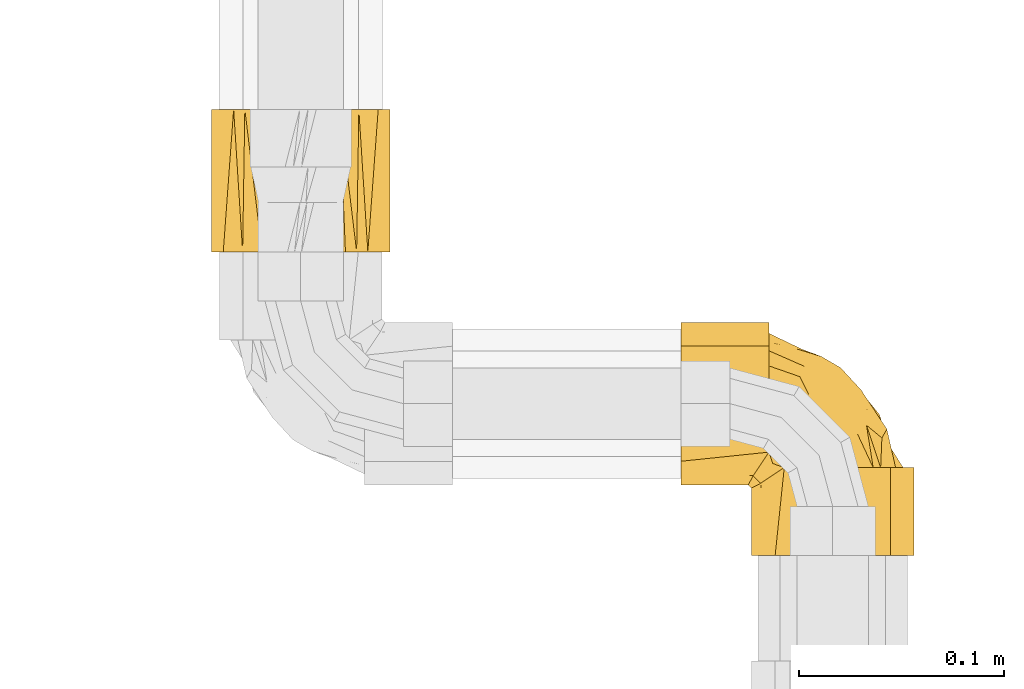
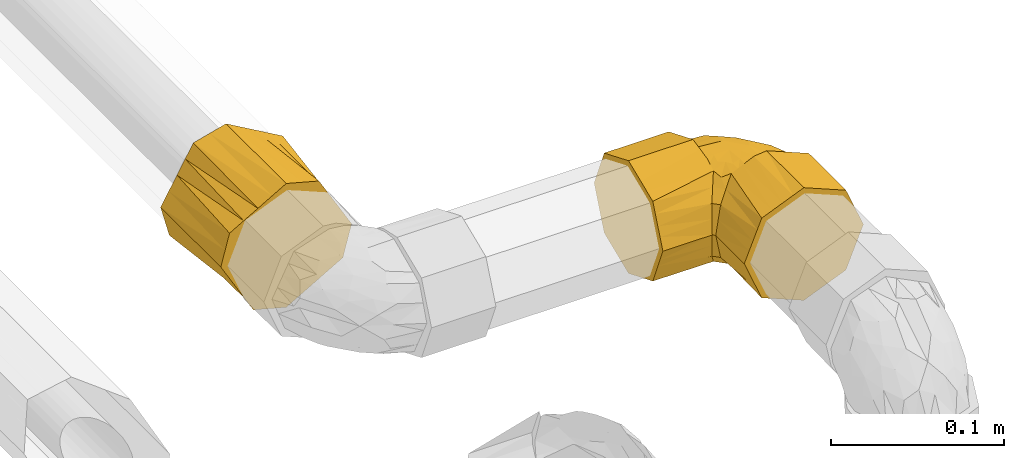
# One storey, part 257 of 652: 2 coverings.
"""IFC2X3 building model written with IfcOpenShell, lengths in millimetres."""

from ifc_helpers import new_model, entity, si_unit, converted_unit, direction, frame, origin, place, context, subcontext, project, spatial, faceted_brep, material, type_object, element, save


model = new_model("IFC2X3")

# Units and contexts
model_context = context("Model", 3, precision=0.01, world=frame((0.0, 0.0, 308426.39999999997)), true_north=direction((6.123233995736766e-17, 1.0)))
plan_context = context("Plan", 3, precision=0.01, world=frame((0.0, 0.0, 308426.39999999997)), true_north=direction((6.123233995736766e-17, 1.0)))
body_context = subcontext(model_context, "Body", "Model", "MODEL_VIEW")
ifc_project = project(units=[si_unit("LENGTHUNIT", "METRE", prefix="MILLI"), si_unit("AREAUNIT", "SQUARE_METRE"), si_unit("VOLUMEUNIT", "CUBIC_METRE"), converted_unit("PLANEANGLEUNIT", "DEGREE", entity("IfcPlaneAngleMeasure", 0.017453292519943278), si_unit("PLANEANGLEUNIT", "RADIAN"), dimensions=[0, 0, 0, 0, 0, 0, 0])], contexts=[model_context, plan_context])

# Site, building, storey
site_placement = place(None, origin())
site = spatial("IfcSite", under=ifc_project, at=site_placement, Name="Default", CompositionType="ELEMENT")
building_placement = place(site_placement, origin())
building = spatial("IfcBuilding", under=site, at=building_placement, CompositionType="ELEMENT")
storey_placement = place(building_placement, frame((0.0, 0.0, 1730.6999999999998)))
storey = spatial("IfcBuildingStorey", under=building, at=storey_placement, Name="EG_Produktion_FFB", CompositionType="ELEMENT", Elevation=1730.6999999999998)

# Coverings
ifc_material = material(Name="Dämmung - Armaflex-Schlauch")
covering_type = type_object("IfcCoveringType", Name="Rohrdämmung außen:Armaflex-Schlauch", PredefinedType="INSULATION")
covering_1_placement = place(storey_placement, frame((79507.84274770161, 51763.77835396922, 3641.3952722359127)))
element("IfcCovering", 1, at=covering_1_placement, inside=storey, type_object=covering_type, material=ifc_material, Name="Rohrdämmung außen:Armaflex-Schlauch", ObjectType="Rohrdämmung außen:Armaflex-Schlauch", PredefinedType="INSULATION", context=body_context, shape_type="Brep", body=[
    faceted_brep([(60.274884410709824, 43.05000000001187, -76.69198954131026), (64.29230202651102, 43.05000000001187, -77.1640415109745), (70.51547105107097, 43.05000000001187, -77.89527223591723), (78.15107734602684, 43.05000000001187, -74.45323515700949), (85.78668364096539, 43.05000000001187, -71.01119807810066), (92.9604596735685, 43.05000000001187, -67.77734838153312), (100.13423570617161, 43.05000000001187, -64.54349868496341), (104.38836473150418, 43.05000000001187, -52.96938546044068), (108.64249375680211, 43.05000000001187, -41.39527223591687), (104.99034516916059, 43.05000000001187, -34.17467666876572), (101.33819658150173, 43.05000000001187, -26.95408110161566), (97.68604799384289, 43.05000000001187, -19.733485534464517), (94.03389940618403, 43.05000000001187, -12.512889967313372), (86.6719403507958, 43.05000000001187, -10.12835180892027), (78.59370570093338, 43.05000000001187, -7.511812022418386), (70.51547105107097, 43.05000000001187, -4.8952722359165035), (64.29230202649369, 43.05000000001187, -5.626502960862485), (60.274884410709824, 43.05000000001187, -6.098554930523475), (55.423202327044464, 43.05000000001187, -7.751839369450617), (50.57152024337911, 43.05000000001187, -9.405123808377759), (58.21189368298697, 43.05000000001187, -5.948218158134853), (65.8522671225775, 43.05000000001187, -2.4913125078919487), (74.24999999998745, 43.05000000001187, -1.5952722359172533), (82.25021212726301, 43.05000000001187, -4.909068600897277), (88.32142494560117, 43.05000000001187, -7.423847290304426), (95.35713741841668, 43.05000000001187, -10.338134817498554), (102.39284989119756, 43.05000000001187, -13.252422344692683), (105.3071374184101, 43.05000000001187, -20.28813481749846), (108.2214249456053, 43.05000000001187, -27.323847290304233), (111.13571247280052, 43.05000000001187, -34.35955976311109), (114.0499999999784, 43.05000000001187, -41.39527223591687), (110.73620360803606, 43.05000000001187, -49.395484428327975), (108.2214249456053, 43.05000000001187, -55.466697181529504), (105.3071374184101, 43.05000000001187, -62.50240965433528), (102.39284989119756, 43.05000000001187, -69.53812212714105), (95.35713741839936, 43.05000000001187, -72.45240965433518), (88.32142494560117, 43.05000000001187, -75.3666971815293), (82.25021085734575, 43.05000000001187, -77.88147639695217), (74.24999999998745, 43.05000000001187, -81.19527223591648), (66.046592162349, 43.05000000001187, -79.42574657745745), (57.843184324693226, 43.05000000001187, -77.65622091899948), (50.57152024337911, 43.05000000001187, -73.38542066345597), (55.423202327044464, 43.05000000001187, -75.03870510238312), (67.21428752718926, 0.0, -4.5095597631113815), (60.17857505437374, 0.0, -7.423847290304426), (53.14286258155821, 0.0, -10.338134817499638), (46.10715010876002, 0.0, -13.252422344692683), (43.1928625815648, 0.0, -20.28813481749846), (40.2785750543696, 0.0, -27.323847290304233), (37.763796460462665, 0.0, -33.39505987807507), (34.44999999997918, 0.0, -41.39527223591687), (37.76379578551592, 0.0, -49.39548296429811), (40.2785750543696, 0.0, -55.466697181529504), (43.1928625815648, 0.0, -62.50240965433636), (46.10715010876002, 0.0, -69.53812212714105), (53.142862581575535, 0.0, -72.45240965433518), (60.17857505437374, 0.0, -75.3666971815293), (67.21428752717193, 0.0, -78.28098470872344), (74.24999999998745, 0.0, -81.19527223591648), (81.28571247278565, 0.0, -78.28098470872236), (88.32142494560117, 0.0, -75.3666971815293), (95.35713741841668, 0.0, -72.45240965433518), (102.39284989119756, 0.0, -69.53812212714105), (105.3071374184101, 0.0, -62.50240965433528), (108.22142494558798, 0.0, -55.466697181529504), (111.13571247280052, 0.0, -48.43098470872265), (114.0499999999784, 0.0, -41.39527223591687), (111.13571247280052, 0.0, -34.35955976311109), (108.2214249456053, 0.0, -27.323847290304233), (105.3071374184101, 0.0, -20.28813481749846), (102.39284989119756, 0.0, -13.252422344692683), (90.250425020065, 0.0, -8.222865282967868), (82.25021251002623, 0.0, -4.90906875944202), (74.24999999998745, 0.0, -1.5952722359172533), (44.81389553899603, 39.20119599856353, -16.10717069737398), (34.44999999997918, 32.96795940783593, -41.39527223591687), (36.753135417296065, 34.16017570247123, -32.102244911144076), (39.056270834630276, 35.352391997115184, -22.809217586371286), (37.9047031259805, 34.756283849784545, -27.45573124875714), (44.81389553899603, 39.20119599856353, -66.68337377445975), (36.753135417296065, 34.16017570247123, -50.68829956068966), (39.056270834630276, 35.352391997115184, -59.98132688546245), (35.51913456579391, 33.52139610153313, -45.709172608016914), (43.04999999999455, 74.25000000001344, -81.1952722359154), (43.04999999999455, 82.25021205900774, -77.88147589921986), (43.04999999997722, 88.32142494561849, -75.3666971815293), (43.04999999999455, 95.35713741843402, -72.45240965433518), (43.04999999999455, 102.39284989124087, -69.53812212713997), (43.04999999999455, 105.30713741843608, -62.502409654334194), (43.04999999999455, 108.22142494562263, -55.46669718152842), (43.04999999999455, 110.7362041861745, -49.395483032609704), (43.04999999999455, 114.05000000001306, -41.39527223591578), (43.04999999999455, 110.73620376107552, -33.395060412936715), (43.04999999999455, 108.22142494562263, -27.323847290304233), (43.04999999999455, 105.30713741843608, -20.288134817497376), (43.04999999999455, 102.39284989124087, -13.252422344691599), (43.04999999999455, 95.35713741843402, -10.33813481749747), (43.04999999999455, 88.32142494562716, -7.423847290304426), (43.04999999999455, 81.2857124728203, -4.509559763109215), (43.04999999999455, 74.25000000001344, -1.5952722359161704), (43.04999999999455, 66.04659216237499, -3.3647978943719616), (43.04999999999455, 57.84318432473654, -5.134323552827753), (43.04999999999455, 50.57152024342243, -9.405123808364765), (43.05000000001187, 55.42320232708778, -7.751839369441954), (43.04999999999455, 60.27488441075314, -6.098554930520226), (43.05000000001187, 64.29230132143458, -5.626503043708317), (43.05000000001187, 67.40388618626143, -5.2608876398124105), (43.04999999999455, 70.5154710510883, -4.8952722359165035), (43.05000000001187, 77.92016221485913, -8.23321562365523), (43.05000000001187, 85.32485337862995, -11.571159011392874), (43.05000000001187, 92.72954454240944, -14.909102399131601), (43.04999999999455, 100.13423570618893, -18.24704578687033), (43.05000000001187, 102.26130021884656, -24.034102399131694), (43.05000000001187, 104.38836473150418, -29.821159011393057), (43.04999999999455, 108.6424937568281, -41.39527223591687), (43.05000000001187, 104.99034516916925, -48.615867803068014), (43.05000000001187, 101.3381965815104, -55.83646337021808), (43.05000000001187, 97.68604799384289, -63.05705893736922), (43.04999999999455, 94.03389940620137, -70.27765450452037), (43.05000000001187, 88.15429231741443, -72.1820589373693), (43.05000000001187, 82.27468522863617, -74.08646337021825), (43.04999999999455, 70.5154710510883, -77.89527223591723), (43.05000000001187, 67.40388618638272, -77.52965683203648), (43.05000000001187, 64.29230132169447, -77.16404142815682), (43.04999999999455, 60.2748844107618, -76.6919895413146), (43.05000000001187, 55.42320232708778, -75.03870510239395), (43.04999999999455, 50.57152024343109, -73.38542066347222), (43.04999999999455, 58.21189368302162, -76.84232631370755), (43.04999999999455, 65.85226712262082, -80.29923196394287), (0.0, 81.2857124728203, -4.509559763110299), (0.0, 88.32142494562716, -7.423847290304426), (0.0, 95.35713741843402, -10.33813481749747), (0.0, 102.39284989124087, -13.252422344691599), (0.0, 107.42240707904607, -25.39484752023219), (0.0, 110.73620353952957, -33.39505987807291), (0.0, 114.05000000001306, -41.39527223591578), (0.0, 111.13571247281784, -48.43098470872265), (0.0, 108.22142494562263, -55.46669718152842), (0.0, 105.30713741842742, -62.50240965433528), (0.0, 102.39284989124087, -69.53812212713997), (0.0, 95.35713741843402, -72.4524096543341), (0.0, 88.32142494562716, -75.36669718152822), (0.0, 81.2857124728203, -78.28098470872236), (0.0, 74.25000000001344, -81.1952722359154), (0.0, 67.21428752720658, -78.28098470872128), (0.0, 60.17857505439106, -75.36669718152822), (0.0, 53.142862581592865, -72.4524096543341), (0.0, 46.10715010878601, -69.53812212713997), (0.0, 43.19286258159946, -62.502409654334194), (0.0, 40.27857505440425, -55.46669718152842), (0.0, 37.763796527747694, -49.39548475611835), (0.0, 34.45000000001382, -41.39527223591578), (0.0, 37.763795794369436, -33.395061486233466), (0.0, 40.27857505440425, -27.323847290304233), (0.0, 43.192862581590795, -20.288134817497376), (0.0, 46.10715010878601, -13.252422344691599), (0.0, 53.142862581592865, -10.33813481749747), (0.0, 60.17857505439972, -7.423847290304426), (0.0, 66.24978748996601, -4.90906875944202), (0.0, 74.25000000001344, -1.5952722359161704), (32.96795940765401, 34.45000000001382, -41.39527223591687), (34.16017570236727, 36.75313541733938, -32.10224491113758), (35.35239199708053, 39.05627083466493, -22.809217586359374), (34.07483277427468, 36.58826909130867, -32.76747165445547), (39.201195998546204, 44.81389553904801, -16.10717069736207), (39.201195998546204, 44.81389553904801, -66.68337377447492), (34.16017570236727, 36.75313541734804, -50.68829956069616), (35.35239199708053, 39.05627083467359, -59.98132688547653), (34.074832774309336, 36.588269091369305, -50.023072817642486), (33.52139609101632, 35.51913454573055, -45.70917252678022), (58.23247908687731, 87.43921856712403, -12.134172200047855), (86.42116019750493, 59.3398095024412, -11.872305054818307), (75.59755590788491, 64.89498398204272, -8.381949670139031), (63.92252865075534, 54.549532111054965, -4.8952722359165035), (71.17681219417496, 57.65819391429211, -5.7130527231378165), (60.44014498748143, 69.69449229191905, -5.822581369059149), (74.83060129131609, 78.761898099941, -14.291189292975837), (90.75092202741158, 63.733305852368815, -17.295947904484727), (78.0596475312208, 91.8721790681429, -41.39527223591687), (68.7383173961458, 97.2888685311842, -33.32279780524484), (88.06243078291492, 81.05022587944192, -32.962075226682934), (100.99678220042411, 55.255544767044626, -41.39527223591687), (100.72281157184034, 61.79290999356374, -31.958631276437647), (79.36057207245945, 82.06651287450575, -20.54301211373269), (45.44339488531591, 68.6847011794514, -4.8952722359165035), (47.83678977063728, 66.85393130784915, -4.8952722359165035), (52.62357954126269, 63.19239156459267, -4.8952722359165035), (53.48626432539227, 62.5325015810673, -4.8952722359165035), (58.27305409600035, 58.87096183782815, -4.8952722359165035), (60.59226921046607, 92.43052769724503, -17.20428891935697), (91.05533751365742, 71.36170051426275, -23.52309104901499), (98.29864441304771, 57.492018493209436, -22.506400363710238), (69.72062004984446, 92.84748127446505, -24.542849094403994), (81.643537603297, 84.7711998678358, -26.88167673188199), (60.554823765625, 100.25733641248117, -41.39527223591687), (59.36959978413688, 100.82508217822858, -41.39527223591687), (93.35107064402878, 67.46108953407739, -41.39527223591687), (89.63440863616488, 73.3943351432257, -41.39527223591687), (85.70535908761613, 79.66663430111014, -41.39527223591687), (57.76510271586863, 100.6966113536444, -26.983143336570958), (62.477618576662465, 78.77804864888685, -8.925282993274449), (99.13845119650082, 58.222167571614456, -41.39527223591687), (67.49149366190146, 48.32447730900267, -4.895272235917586), (59.66627116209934, 48.69317164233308, -5.551365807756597), (54.38051617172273, 47.964423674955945, -6.779464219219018), (33.737362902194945, 33.737362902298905, -41.39527223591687), (51.58600444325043, 51.58600496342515, -6.674921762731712), (44.9882204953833, 44.98822020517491, -11.256462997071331), (47.964422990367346, 54.38051589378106, -6.779464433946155), (48.600669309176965, 59.63820058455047, -5.565993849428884), (59.66627116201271, 48.69317164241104, -77.23917866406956), (67.4914936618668, 48.32447730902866, -77.89527223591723), (44.988220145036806, 44.98822011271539, -71.5340812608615), (51.58600369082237, 51.586004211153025, -76.11562236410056), (58.27305409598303, 58.87096183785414, -77.89527223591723), (54.3805161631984, 47.964423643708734, -76.01108024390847), (47.96442295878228, 54.380515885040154, -76.0110800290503), (48.600669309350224, 59.63820058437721, -77.22455062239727), (47.83678977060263, 66.85393130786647, -77.89527223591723), (45.44339488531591, 68.68470117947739, -77.89527223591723), (52.623579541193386, 63.19239156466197, -77.89527223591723), (53.48626432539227, 62.5325015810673, -77.89527223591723), (63.92252865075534, 54.549532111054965, -77.89527223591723), (78.04877773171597, 59.71456886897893, -74.88571901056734), (85.86627113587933, 58.230498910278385, -71.63741334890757), (57.28853793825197, 76.57285852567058, -75.88132954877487), (85.39518385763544, 83.50662271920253, -50.938960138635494), (77.13544844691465, 80.0332007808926, -66.0108395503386), (68.41457314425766, 74.59033436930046, -73.66837271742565), (64.68516499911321, 87.07939433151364, -68.18270760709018), (64.86670611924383, 66.22403301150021, -76.89386599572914), (73.19566844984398, 56.06914431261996, -76.90226649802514), (85.8185794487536, 67.93837358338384, -67.4389266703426), (75.96028629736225, 86.8185514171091, -60.25020692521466), (65.77892171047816, 98.52707757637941, -51.15639169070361), (60.53986394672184, 96.99211743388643, -60.07117178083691), (57.39776429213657, 83.51012836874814, -73.16342274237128), (95.84113677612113, 64.90812724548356, -58.195779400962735), (86.4944008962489, 74.90326070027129, -61.69889229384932), (94.20624665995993, 56.08355083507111, -66.04016185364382), (97.22085117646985, 68.75694835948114, -49.67803307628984)], [[[0, 1, 2, 3, 4, 5, 6, 7, 8, 9, 10, 11, 12, 13, 14, 15, 16, 17, 18, 19, 20, 21, 22, 23, 24, 25, 26, 27, 28, 29, 30, 31, 32, 33, 34, 35, 36, 37, 38, 39, 40, 41, 42]], [[43, 44, 45, 46, 47, 48, 49, 50, 51, 52, 53, 54, 55, 56, 57, 58, 59, 60, 61, 62, 63, 64, 65, 66, 67, 68, 69, 70, 71, 72, 73]], [[47, 46, 74]], [[75, 50, 49]], [[76, 75, 49]], [[48, 77, 78, 76]], [[47, 74, 77]], [[44, 20, 45]], [[43, 21, 44]], [[46, 19, 74]], [[77, 48, 47]], [[44, 21, 20]], [[43, 22, 21]], [[48, 76, 49]], [[43, 73, 22]], [[45, 20, 19]], [[19, 46, 45]], [[23, 22, 73, 72, 71, 70, 26, 25, 24]], [[26, 70, 69, 68, 67, 66, 30, 29, 28, 27]], [[38, 37, 36, 35, 34, 62, 61, 60, 59, 58]], [[30, 66, 65, 64, 63, 62, 34, 33, 32, 31]], [[56, 40, 39]], [[53, 79, 54]], [[39, 57, 56]], [[41, 55, 54]], [[40, 55, 41]], [[80, 52, 51]], [[52, 80, 81]], [[58, 57, 38]], [[51, 75, 82, 80]], [[38, 57, 39]], [[79, 53, 81]], [[55, 40, 56]], [[51, 50, 75]], [[53, 52, 81]], [[79, 41, 54]], [[83, 84, 85, 86, 87, 88, 89, 90, 91, 92, 93, 94, 95, 96, 97, 98, 99, 100, 101, 102, 103, 104, 105, 106, 107, 108, 109, 110, 111, 112, 113, 114, 115, 116, 117, 118, 119, 120, 121, 122, 123, 124, 125, 126, 127, 128]], [[129, 130, 131, 132, 133, 134, 135, 136, 137, 138, 139, 140, 141, 142, 143, 144, 145, 146, 147, 148, 149, 150, 151, 152, 153, 154, 155, 156, 157, 158, 159]], [[135, 134, 133, 132, 95, 94, 93, 92, 91]], [[95, 132, 131, 130, 129, 159, 99, 98, 97, 96]], [[159, 158, 157, 100]], [[101, 156, 102]], [[99, 159, 100]], [[101, 100, 157]], [[152, 151, 160]], [[102, 156, 155]], [[153, 161, 162]], [[161, 153, 152]], [[152, 160, 163, 161]], [[154, 164, 155]], [[164, 154, 162]], [[156, 101, 157]], [[154, 153, 162]], [[164, 102, 155]], [[148, 147, 165]], [[149, 166, 150]], [[166, 149, 167]], [[160, 151, 150]], [[148, 165, 167]], [[145, 127, 146]], [[144, 128, 145]], [[147, 126, 165]], [[167, 149, 148]], [[145, 128, 127]], [[144, 83, 128]], [[150, 166, 168, 169, 160]], [[144, 143, 83]], [[146, 127, 126]], [[126, 147, 146]], [[91, 90, 89, 88, 87, 139, 138, 137, 136, 135]], [[141, 140, 139, 87, 86, 85, 84, 83, 143, 142]], [[109, 170, 110]], [[13, 171, 172]], [[14, 13, 172]], [[173, 174, 175]], [[176, 171, 177]], [[15, 14, 174]], [[178, 179, 180]], [[9, 181, 182]], [[172, 175, 174]], [[13, 12, 171]], [[12, 11, 177]], [[176, 177, 183]], [[175, 107, 184, 185, 186, 187, 188, 173]], [[189, 170, 176]], [[176, 172, 171]], [[190, 191, 182]], [[11, 10, 191]], [[177, 11, 191]], [[170, 189, 110]], [[192, 183, 193]], [[179, 178, 194, 195]], [[182, 191, 10]], [[190, 182, 180]], [[177, 191, 190]], [[182, 10, 9]], [[182, 196, 180]], [[177, 190, 183]], [[177, 171, 12]], [[180, 196, 197, 198, 178]], [[113, 179, 195]], [[112, 111, 199, 113]], [[199, 111, 189]], [[195, 114, 113]], [[179, 192, 193]], [[200, 175, 172]], [[200, 108, 175]], [[172, 176, 200]], [[189, 111, 110]], [[200, 170, 109]], [[183, 189, 176]], [[108, 200, 109]], [[189, 192, 199]], [[108, 107, 175]], [[176, 170, 200]], [[193, 190, 180]], [[189, 183, 192]], [[190, 193, 183]], [[179, 193, 180]], [[181, 9, 8]], [[182, 181, 201, 196]], [[192, 179, 199]], [[179, 113, 199]], [[174, 173, 202, 15]], [[172, 174, 14]], [[173, 203, 202]], [[188, 204, 203]], [[17, 203, 18]], [[202, 17, 16, 15]], [[205, 76, 163]], [[74, 164, 162, 77]], [[163, 76, 78, 77, 162, 161]], [[206, 102, 207]], [[207, 164, 74]], [[184, 107, 106, 105, 104, 185]], [[206, 208, 102]], [[186, 185, 209, 188, 187]], [[205, 75, 76]], [[163, 160, 205]], [[206, 207, 19]], [[164, 207, 102]], [[19, 18, 204]], [[19, 207, 74]], [[202, 203, 17]], [[204, 206, 19]], [[203, 173, 188]], [[18, 203, 204]], [[102, 208, 103]], [[103, 209, 104]], [[208, 206, 188]], [[209, 103, 208]], [[209, 185, 104]], [[188, 209, 208]], [[204, 188, 206]], [[205, 160, 169]], [[210, 211, 0]], [[169, 168, 166, 167, 81, 80, 82]], [[41, 212, 213]], [[1, 0, 211, 2]], [[213, 214, 215]], [[205, 169, 82]], [[79, 165, 212]], [[126, 125, 216]], [[213, 212, 126]], [[205, 82, 75]], [[167, 165, 79, 81]], [[217, 124, 218]], [[210, 215, 214]], [[122, 121, 219, 218, 124, 123]], [[41, 79, 212]], [[212, 165, 126]], [[215, 41, 213]], [[125, 124, 217]], [[126, 216, 213]], [[125, 217, 216]], [[217, 218, 220, 221, 214]], [[215, 42, 41]], [[0, 42, 210]], [[211, 210, 222]], [[214, 213, 216]], [[210, 42, 215]], [[216, 217, 214]], [[210, 214, 222]], [[4, 223, 224]], [[121, 120, 225]], [[226, 178, 198, 197]], [[227, 228, 229]], [[230, 228, 223]], [[231, 222, 230]], [[224, 228, 232]], [[233, 234, 226]], [[3, 231, 223]], [[235, 234, 233]], [[236, 225, 120]], [[231, 2, 211, 222]], [[226, 237, 238]], [[4, 3, 223]], [[225, 221, 220, 218, 219, 121]], [[239, 224, 232]], [[6, 237, 7]], [[237, 6, 239]], [[240, 201, 7]], [[230, 225, 228]], [[226, 240, 237]], [[236, 228, 225]], [[229, 117, 235]], [[194, 234, 115]], [[226, 234, 178]], [[115, 114, 195, 194]], [[237, 239, 238]], [[240, 226, 197]], [[228, 224, 223]], [[224, 239, 5]], [[5, 239, 6]], [[5, 4, 224]], [[239, 232, 238]], [[7, 201, 181, 8]], [[7, 237, 240]], [[240, 197, 196, 201]], [[229, 118, 117]], [[194, 178, 234]], [[233, 238, 227]], [[235, 117, 116]], [[234, 235, 116]], [[229, 235, 233]], [[231, 3, 2]], [[230, 223, 231]], [[230, 222, 214, 221]], [[225, 230, 221]], [[119, 118, 236, 120]], [[236, 118, 229]], [[229, 228, 236]], [[234, 116, 115]], [[227, 238, 232]], [[226, 238, 233]], [[228, 227, 232]], [[233, 227, 229]]]),
])
covering_2_placement = place(storey_placement, frame((79276.77747546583, 51912.27835396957, 3645.3152722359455)))
element("IfcCovering", 2, at=covering_2_placement, inside=storey, type_object=covering_type, material=ifc_material, Name="Rohrdämmung außen:Armaflex-Schlauch", ObjectType="Rohrdämmung außen:Armaflex-Schlauch", PredefinedType="INSULATION", context=body_context, shape_type="Brep", body=[
    faceted_brep([(1.5952722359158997, 0.0, -45.3152722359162), (7.0602722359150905, 0.0, -54.78092989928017), (12.525272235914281, 0.0, -64.24658756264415), (17.990272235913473, 0.0, -73.71224522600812), (23.455272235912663, 0.0, -83.17790288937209), (34.385272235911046, 0.0, -86.10658756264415), (45.315272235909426, 0.0, -89.03527223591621), (54.7809298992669, 0.0, -83.57027223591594), (64.24658756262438, 0.0, -78.10527223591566), (73.71224522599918, 0.0, -72.64027223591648), (83.17790288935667, 0.0, -67.17527223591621), (86.10658756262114, 0.0, -56.245272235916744), (89.03527223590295, 0.0, -45.3152722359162), (83.57027223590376, 0.0, -35.84961457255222), (78.10527223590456, 0.0, -26.383956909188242), (72.64027223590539, 0.0, -16.918299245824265), (67.17527223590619, 0.0, -7.452641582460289), (56.245272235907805, 0.0, -4.52395690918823), (45.315272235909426, 0.0, -1.5952722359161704), (35.84961457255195, 0.0, -7.060272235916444), (26.383956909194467, 0.0, -12.525272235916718), (16.918299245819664, 0.0, -17.99027223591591), (7.452641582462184, 0.0, -23.455272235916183), (4.523956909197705, 0.0, -34.38527223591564), (54.7809298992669, 69.65000000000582, -7.060272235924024), (64.24658756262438, 69.65000000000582, -12.525272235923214), (73.71224522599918, 69.65000000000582, -17.990272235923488), (83.177902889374, 69.65000000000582, -23.45527223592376), (86.10658756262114, 69.65000000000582, -34.38527223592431), (89.03527223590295, 69.65000000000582, -45.31527223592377), (83.57027223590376, 69.65000000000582, -54.78092989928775), (78.10527223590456, 69.65000000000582, -64.24658756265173), (72.64027223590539, 69.65000000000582, -73.7122452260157), (67.17527223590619, 69.65000000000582, -83.17790288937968), (56.245272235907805, 69.65000000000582, -86.10658756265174), (45.315272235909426, 69.65000000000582, -89.0352722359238), (35.84961457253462, 69.65000000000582, -83.57027223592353), (26.38395690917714, 69.65000000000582, -78.10527223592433), (16.918299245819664, 69.65000000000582, -72.64027223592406), (7.452641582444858, 69.65000000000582, -67.17527223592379), (4.523956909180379, 69.65000000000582, -56.24527223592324), (1.5952722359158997, 69.65000000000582, -45.31527223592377), (7.0602722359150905, 69.65000000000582, -35.849614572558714), (12.525272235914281, 69.65000000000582, -26.383956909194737), (17.990272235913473, 69.65000000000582, -16.918299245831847), (23.455272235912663, 69.65000000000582, -7.452641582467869), (34.385272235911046, 69.65000000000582, -4.523956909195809), (45.315272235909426, 69.65000000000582, -1.5952722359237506)], [[[0, 1, 2, 3, 4, 5, 6, 7, 8, 9, 10, 11, 12, 13, 14, 15, 16, 17, 18, 19, 20, 21, 22, 23]], [[24, 25, 26, 27, 28, 29, 30, 31, 32, 33, 34, 35, 36, 37, 38, 39, 40, 41, 42, 43, 44, 45, 46, 47]], [[1, 40, 39]], [[37, 3, 38]], [[0, 41, 40]], [[3, 2, 38]], [[5, 4, 36]], [[35, 6, 5]], [[0, 40, 1]], [[39, 2, 1]], [[2, 39, 38]], [[37, 4, 3]], [[4, 37, 36]], [[35, 5, 36]], [[7, 34, 33]], [[31, 9, 32]], [[6, 35, 34]], [[9, 8, 32]], [[11, 10, 30]], [[29, 12, 11]], [[6, 34, 7]], [[33, 8, 7]], [[8, 33, 32]], [[31, 10, 9]], [[10, 31, 30]], [[29, 11, 30]], [[13, 28, 27]], [[25, 15, 26]], [[12, 29, 28]], [[15, 14, 26]], [[17, 16, 24]], [[47, 18, 17]], [[12, 28, 13]], [[27, 14, 13]], [[14, 27, 26]], [[25, 16, 15]], [[16, 25, 24]], [[47, 17, 24]], [[19, 46, 45]], [[43, 21, 44]], [[18, 47, 46]], [[21, 20, 44]], [[23, 22, 42]], [[41, 0, 23]], [[18, 46, 19]], [[45, 20, 19]], [[20, 45, 44]], [[43, 22, 21]], [[22, 43, 42]], [[41, 23, 42]]]),
])

save(model, "model.ifc")
